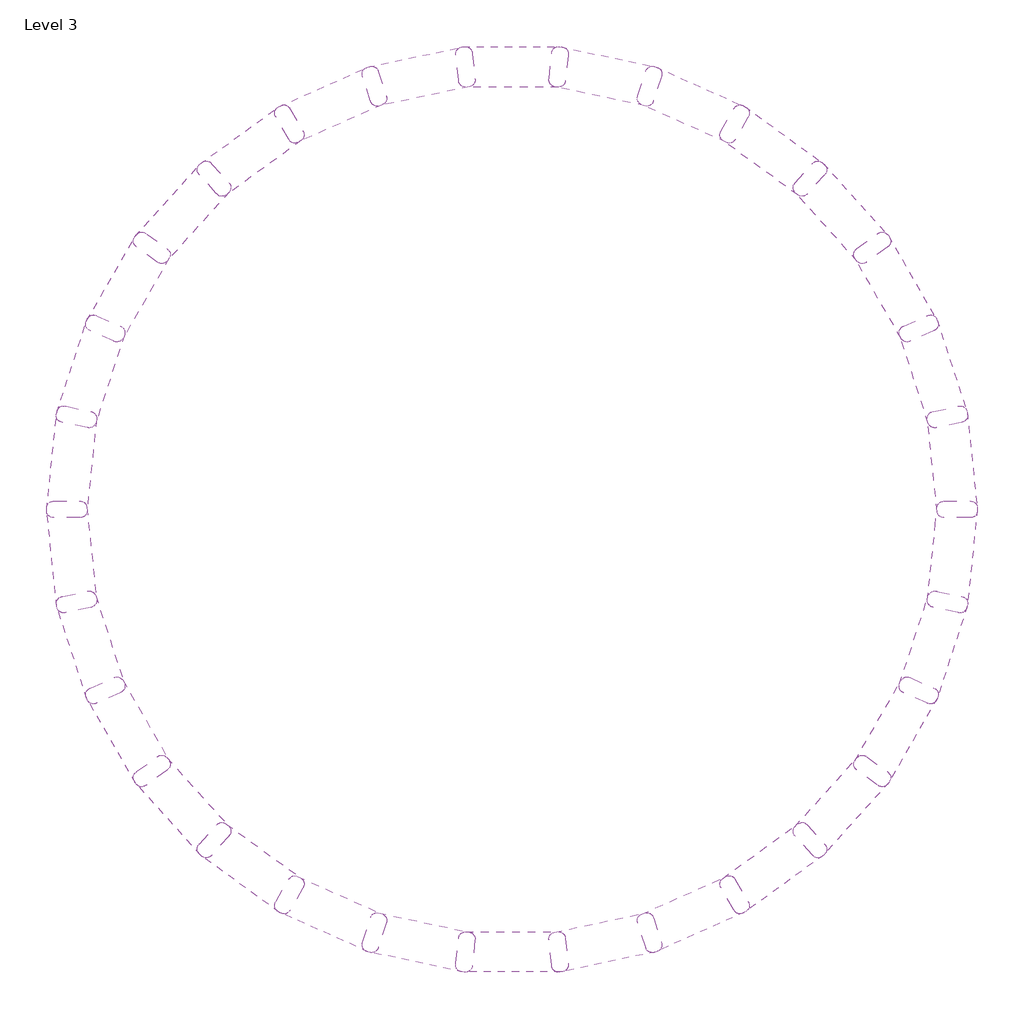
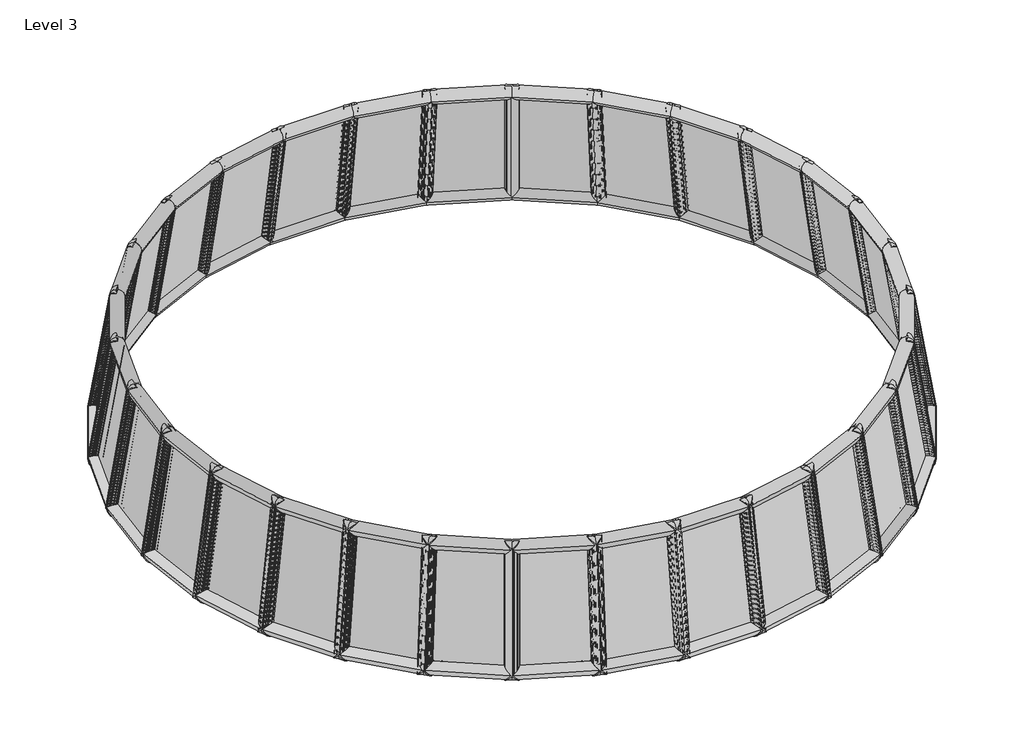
# One storey: 30 plates.
"""IFC4 building model written with IfcOpenShell, lengths in millimetres."""

from ifc_helpers import new_model, si_unit, origin, place, context, project, spatial, transform, mapped, element, save
from components import curtainpanel_curtainpanel_73175d91

model = new_model("IFC4")

# Units and contexts
model_context = context("Model", 3, world=origin())
ifc_project = project(units=[si_unit("LENGTHUNIT", "METRE", prefix="MILLI")], contexts=[model_context])

# Site, building, storey
site = spatial("IfcSite", under=ifc_project)
building = spatial("IfcBuilding", under=site)
storey = spatial("IfcBuildingStorey", under=building, Name="Level 3", Elevation=8000.0)

# Plates
placement = place(None, origin())
curtainpanel_curtainpanel_shape = curtainpanel_curtainpanel_73175d91(model_context)
element("IfcPlate", 1, ObjectType="CurtainPanel : CurtainPanel", at=placement, inside=storey, context=model_context, shape_type="MappedRepresentation", body=[
    mapped(curtainpanel_curtainpanel_shape, transform((11093.278212, -48.4363384, 19327.968105), x_axis=(-0.2629967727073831, 0.9334908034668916, -0.24377780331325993), y_axis=(0.21944719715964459, -0.1881711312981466, -0.9573058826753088), z_axis=(-0.9395081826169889, -0.3052647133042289, -0.15536354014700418))),
])
element("IfcPlate", 2, ObjectType="CurtainPanel : CurtainPanel", at=placement, inside=storey, context=model_context, shape_type="MappedRepresentation", body=[
    mapped(curtainpanel_curtainpanel_shape, transform((10012.4613938, 4569.9816689, 19327.968105), x_axis=(-0.6199444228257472, 0.7458158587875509, -0.24377780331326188), y_axis=(0.27701108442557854, -0.08264566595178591, -0.9573058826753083), z_axis=(-0.7341210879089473, -0.6610055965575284, -0.15536354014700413))),
])
element("IfcPlate", 3, ObjectType="CurtainPanel : CurtainPanel", at=placement, inside=storey, context=model_context, shape_type="MappedRepresentation", body=[
    mapped(curtainpanel_curtainpanel_shape, transform((7146.6062623, 8349.5086565, 19327.968105), x_axis=(-0.8696980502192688, 0.42918257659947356, -0.24377780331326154), y_axis=(0.2866772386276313, 0.037169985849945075, -0.9573058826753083), z_axis=(-0.40179778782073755, -0.9024526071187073, -0.155363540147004))),
])
element("IfcPlate", 4, ObjectType="CurtainPanel : CurtainPanel", at=placement, inside=storey, context=model_context, shape_type="MappedRepresentation", body=[
    mapped(curtainpanel_curtainpanel_shape, transform((2991.2452053, 10636.6300724, 19327.968105), x_axis=(-0.9690729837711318, 0.038339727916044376, -0.24377780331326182), y_axis=(0.2467742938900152, 0.15055860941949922, -0.9573058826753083), z_axis=(0.0, -0.9878573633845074, -0.1553635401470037))),
])
element("IfcPlate", 5, ObjectType="CurtainPanel : CurtainPanel", at=placement, inside=storey, context=model_context, shape_type="MappedRepresentation", body=[
    mapped(curtainpanel_curtainpanel_shape, transform((-1735.1221001, 11035.8818459, 19327.968105), x_axis=(-0.900886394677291, -0.3591324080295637, -0.24377780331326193), y_axis=(0.16420183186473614, 0.2379142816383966, -0.9573058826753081), z_axis=(0.4017977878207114, -0.9024526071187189, -0.1553635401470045))),
])
element("IfcPlate", 6, ObjectType="CurtainPanel : CurtainPanel", at=placement, inside=storey, context=model_context, shape_type="MappedRepresentation", body=[
    mapped(curtainpanel_curtainpanel_shape, transform((-6215.2638093, 9478.2297183, 19327.968105), x_axis=(-0.6769283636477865, -0.6945072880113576, -0.24377780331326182), y_axis=(0.053237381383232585, 0.2841324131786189, -0.9573058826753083), z_axis=(0.7341210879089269, -0.6610055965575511, -0.1553635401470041))),
])
element("IfcPlate", 7, ObjectType="CurtainPanel : CurtainPanel", at=placement, inside=storey, context=model_context, shape_type="MappedRepresentation", body=[
    mapped(curtainpanel_curtainpanel_shape, transform((-9674.5227198, 6233.0058932, 19327.968105), x_axis=(-0.33592326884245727, -0.9097955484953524, -0.24377780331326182), y_axis=(-0.06693229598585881, 0.28122146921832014, -0.9573058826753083), z_axis=(0.9395081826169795, -0.30526471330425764, -0.15536354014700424))),
])
element("IfcPlate", 8, ObjectType="CurtainPanel : CurtainPanel", at=placement, inside=storey, context=model_context, shape_type="MappedRepresentation", body=[
    mapped(curtainpanel_curtainpanel_shape, transform((10892.5527301, -2424.6370674, 19327.968105), x_axis=(-0.06316601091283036, 0.9677718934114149, -0.24377780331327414), y_axis=(0.17552877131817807, -0.2296847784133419, -0.957305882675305), z_axis=(-0.9824457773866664, -0.10325921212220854, -0.1553635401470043))),
])
element("IfcPlate", 9, ObjectType="CurtainPanel : CurtainPanel", at=placement, inside=storey, context=model_context, shape_type="MappedRepresentation", body=[
    mapped(curtainpanel_curtainpanel_shape, transform((10795.5774493, 2317.5718778, 19327.968105), x_axis=(-0.45133331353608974, 0.8584116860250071, -0.24377780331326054), y_axis=(0.25377472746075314, -0.13843350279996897, -0.9573058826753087), z_axis=(-0.8555095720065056, -0.49392868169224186, -0.1553635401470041))),
])
element("IfcPlate", 10, ObjectType="CurtainPanel : CurtainPanel", at=placement, inside=storey, context=model_context, shape_type="MappedRepresentation", body=[
    mapped(curtainpanel_curtainpanel_shape, transform((8778.1559749, 6610.3519187, 19327.968105), x_axis=(-0.7614609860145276, 0.6006242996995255, -0.24377780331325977), y_axis=(0.2881407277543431, -0.02324581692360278, -0.9573058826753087), z_axis=(-0.5806479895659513, -0.7991933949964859, -0.15536354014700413))),
])
element("IfcPlate", 11, ObjectType="CurtainPanel : CurtainPanel", at=placement, inside=storey, context=model_context, shape_type="MappedRepresentation", body=[
    mapped(curtainpanel_curtainpanel_shape, transform((5189.1188075, 9711.4423876, 19327.968105), x_axis=(-0.9399251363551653, 0.23898351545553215, -0.24377780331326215), y_axis=(0.27268457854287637, 0.09596128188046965, -0.9573058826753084), z_axis=(-0.20538709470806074, -0.9662703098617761, -0.15536354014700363))),
])
element("IfcPlate", 12, ObjectType="CurtainPanel : CurtainPanel", at=placement, inside=storey, context=model_context, shape_type="MappedRepresentation", body=[
    mapped(curtainpanel_curtainpanel_shape, transform((649.0430788, 11084.6365698, 19327.968105), x_axis=(-0.9558676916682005, -0.16397968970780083, -0.2437778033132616), y_axis=(0.21007878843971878, 0.19857580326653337, -0.9573058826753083), z_axis=(0.2053870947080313, -0.9662703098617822, -0.15536354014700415))),
])
element("IfcPlate", 13, ObjectType="CurtainPanel : CurtainPanel", at=placement, inside=storey, context=model_context, shape_type="MappedRepresentation", body=[
    mapped(curtainpanel_curtainpanel_shape, transform((-4057.0508726, 10492.4967162, 19327.968105), x_axis=(-0.8065320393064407, -0.5385893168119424, -0.2437778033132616), y_axis=(0.11114846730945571, 0.26685476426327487, -0.9573058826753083), z_axis=(0.5806479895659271, -0.7991933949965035, -0.15536354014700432))),
])
element("IfcPlate", 14, ObjectType="CurtainPanel : CurtainPanel", at=placement, inside=storey, context=model_context, shape_type="MappedRepresentation", body=[
    mapped(curtainpanel_curtainpanel_shape, transform((-8115.4366488, 8037.4091869, 19327.968105), x_axis=(-0.5177396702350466, -0.8200719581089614, -0.2437778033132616), y_axis=(-0.007000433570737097, 0.2889921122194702, -0.9573058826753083), z_axis=(0.8555095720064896, -0.49392868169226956, -0.15536354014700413))),
])
element("IfcPlate", 15, ObjectType="CurtainPanel : CurtainPanel", at=placement, inside=storey, context=model_context, shape_type="MappedRepresentation", body=[
    mapped(curtainpanel_curtainpanel_shape, transform((-10824.3824798, 4143.8809195, 19327.968105), x_axis=(-0.1394254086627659, -0.9597567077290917, -0.24377780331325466), y_axis=(-0.1239388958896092, 0.26116009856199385, -0.95730588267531), z_axis=(0.9824457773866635, -0.10325921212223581, -0.15536354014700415))),
])
element("IfcPlate", 16, ObjectType="CurtainPanel : CurtainPanel", at=placement, inside=storey, context=model_context, shape_type="MappedRepresentation", body=[
    mapped(curtainpanel_curtainpanel_shape, transform((-11715.4870216, -514.861677, 19327.968105), x_axis=(0.262996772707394, -0.933490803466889, -0.24377780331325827), y_axis=(-0.219447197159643, 0.18817113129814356, -0.9573058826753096), z_axis=(0.9395081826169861, 0.3052647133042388, -0.15536354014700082))),
])
element("IfcPlate", 17, ObjectType="CurtainPanel : CurtainPanel", at=placement, inside=storey, context=model_context, shape_type="MappedRepresentation", body=[
    mapped(curtainpanel_curtainpanel_shape, transform((-10634.6702034, -5133.2796843, 19327.968105), x_axis=(0.6199444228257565, -0.7458158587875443, -0.2437778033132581), y_axis=(-0.2770110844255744, 0.08264566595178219, -0.9573058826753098), z_axis=(0.734121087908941, 0.6610055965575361, -0.15536354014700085))),
])
element("IfcPlate", 18, ObjectType="CurtainPanel : CurtainPanel", at=placement, inside=storey, context=model_context, shape_type="MappedRepresentation", body=[
    mapped(curtainpanel_curtainpanel_shape, transform((-7768.8150719, -8912.806672, 19327.968105), x_axis=(0.8696980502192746, -0.42918257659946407, -0.24377780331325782), y_axis=(-0.2866772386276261, -0.037169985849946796, -0.9573058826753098), z_axis=(0.4017977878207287, 0.9024526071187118, -0.15536354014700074))),
])
element("IfcPlate", 19, ObjectType="CurtainPanel : CurtainPanel", at=placement, inside=storey, context=model_context, shape_type="MappedRepresentation", body=[
    mapped(curtainpanel_curtainpanel_shape, transform((-3613.4540149, -11199.9280879, 19327.968105), x_axis=(0.9690729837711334, -0.03833972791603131, -0.2437778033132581), y_axis=(-0.2467742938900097, -0.15055860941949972, -0.9573058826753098), z_axis=(0.0, 0.9878573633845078, -0.155363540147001))),
])
element("IfcPlate", 20, ObjectType="CurtainPanel : CurtainPanel", at=placement, inside=storey, context=model_context, shape_type="MappedRepresentation", body=[
    mapped(curtainpanel_curtainpanel_shape, transform((1112.9132905, -11599.1798613, 19327.968105), x_axis=(0.9008863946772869, 0.35913240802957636, -0.24377780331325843), y_axis=(-0.1642018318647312, -0.23791428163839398, -0.9573058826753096), z_axis=(-0.4017977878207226, 0.9024526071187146, -0.15536354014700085))),
])
element("IfcPlate", 21, ObjectType="CurtainPanel : CurtainPanel", at=placement, inside=storey, context=model_context, shape_type="MappedRepresentation", body=[
    mapped(curtainpanel_curtainpanel_shape, transform((5593.0549997, -10041.5277337, 19327.968105), x_axis=(0.6769283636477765, 0.6945072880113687, -0.24377780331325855), y_axis=(-0.053237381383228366, -0.284132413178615, -0.9573058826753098), z_axis=(-0.7341210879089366, 0.6610055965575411, -0.1553635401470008))),
])
element("IfcPlate", 22, ObjectType="CurtainPanel : CurtainPanel", at=placement, inside=storey, context=model_context, shape_type="MappedRepresentation", body=[
    mapped(curtainpanel_curtainpanel_shape, transform((9052.3139102, -6796.3039086, 19327.968105), x_axis=(0.3359232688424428, 0.9097955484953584, -0.24377780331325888), y_axis=(0.06693229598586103, -0.281221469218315, -0.9573058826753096), z_axis=(-0.9395081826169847, 0.3052647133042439, -0.15536354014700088))),
])
element("IfcPlate", 23, ObjectType="CurtainPanel : CurtainPanel", at=placement, inside=storey, context=model_context, shape_type="MappedRepresentation", body=[
    mapped(curtainpanel_curtainpanel_shape, transform((-11514.7615397, 1861.339052, 19327.968105), x_axis=(0.06316601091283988, -0.9677718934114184, -0.2437778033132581), y_axis=(-0.17552877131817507, 0.2296847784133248, -0.9573058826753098), z_axis=(0.9824457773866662, 0.10325921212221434, -0.15536354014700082))),
])
element("IfcPlate", 24, ObjectType="CurtainPanel : CurtainPanel", at=placement, inside=storey, context=model_context, shape_type="MappedRepresentation", body=[
    mapped(curtainpanel_curtainpanel_shape, transform((-11417.7862589, -2880.8698932, 19327.968105), x_axis=(0.45133331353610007, -0.8584116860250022, -0.24377780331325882), y_axis=(-0.2537747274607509, 0.13843350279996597, -0.9573058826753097), z_axis=(0.8555095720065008, 0.49392868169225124, -0.15536354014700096))),
])
element("IfcPlate", 25, ObjectType="CurtainPanel : CurtainPanel", at=placement, inside=storey, context=model_context, shape_type="MappedRepresentation", body=[
    mapped(curtainpanel_curtainpanel_shape, transform((-9400.3647845, -7173.6499341, 19327.968105), x_axis=(0.7614609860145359, -0.6006242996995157, -0.24377780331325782), y_axis=(-0.2881407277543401, 0.02324581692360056, -0.9573058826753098), z_axis=(0.5806479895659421, 0.7991933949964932, -0.155363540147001))),
])
element("IfcPlate", 26, ObjectType="CurtainPanel : CurtainPanel", at=placement, inside=storey, context=model_context, shape_type="MappedRepresentation", body=[
    mapped(curtainpanel_curtainpanel_shape, transform((-5811.3276171, -10274.740403, 19327.968105), x_axis=(0.9399251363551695, -0.23898351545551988, -0.2437778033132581), y_axis=(-0.2726845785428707, -0.09596128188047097, -0.9573058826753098), z_axis=(0.2053870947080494, 0.9662703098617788, -0.15536354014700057))),
])
element("IfcPlate", 27, ObjectType="CurtainPanel : CurtainPanel", at=placement, inside=storey, context=model_context, shape_type="MappedRepresentation", body=[
    mapped(curtainpanel_curtainpanel_shape, transform((-1271.2518884, -11647.9345852, 19327.968105), x_axis=(0.9558676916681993, 0.16397968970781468, -0.24377780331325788), y_axis=(-0.21007878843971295, -0.19857580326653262, -0.9573058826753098), z_axis=(-0.20538709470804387, 0.96627030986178, -0.15536354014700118))),
])
element("IfcPlate", 28, ObjectType="CurtainPanel : CurtainPanel", at=placement, inside=storey, context=model_context, shape_type="MappedRepresentation", body=[
    mapped(curtainpanel_curtainpanel_shape, transform((3434.8420629, -11055.7947316, 19327.968105), x_axis=(0.8065320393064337, 0.5385893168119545, -0.2437778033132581), y_axis=(-0.11114846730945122, -0.26685476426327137, -0.9573058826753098), z_axis=(-0.5806479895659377, 0.7991933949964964, -0.15536354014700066))),
])
element("IfcPlate", 29, ObjectType="CurtainPanel : CurtainPanel", at=placement, inside=storey, context=model_context, shape_type="MappedRepresentation", body=[
    mapped(curtainpanel_curtainpanel_shape, transform((7493.2278391, -8600.7072023, 19327.968105), x_axis=(0.5177396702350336, 0.8200719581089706, -0.24377780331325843), y_axis=(0.007000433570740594, -0.2889921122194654, -0.9573058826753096), z_axis=(-0.8555095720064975, 0.4939286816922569, -0.15536354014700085))),
])
element("IfcPlate", 30, ObjectType="CurtainPanel : CurtainPanel", at=placement, inside=storey, context=model_context, shape_type="MappedRepresentation", body=[
    mapped(curtainpanel_curtainpanel_shape, transform((10202.1736702, -4707.1789349, 19327.968105), x_axis=(0.1394254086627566, 0.9597567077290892, -0.2437778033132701), y_axis=(0.12393889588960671, -0.26116009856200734, -0.9573058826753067), z_axis=(-0.982445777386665, 0.10325921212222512, -0.1553635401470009))),
])

save(model, "model.ifc")
